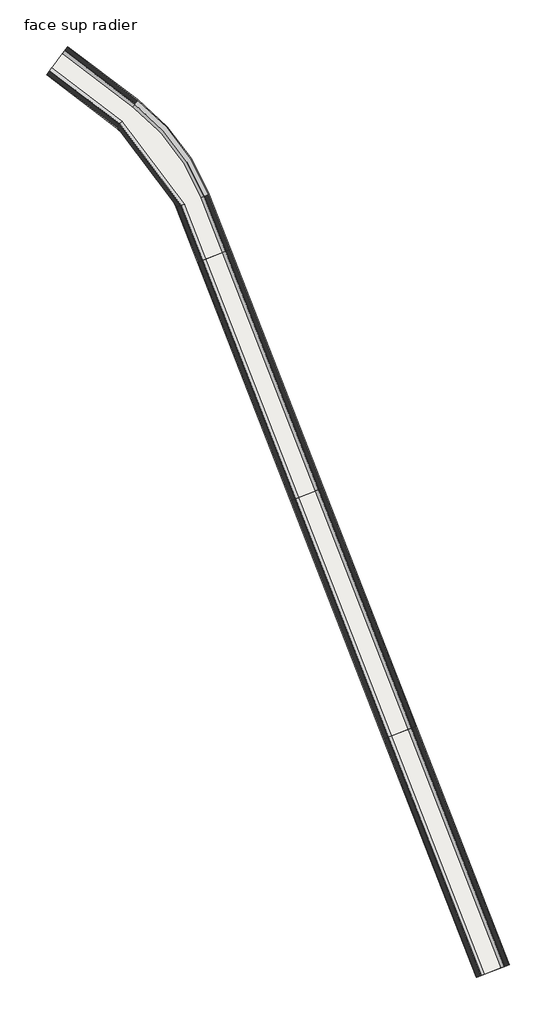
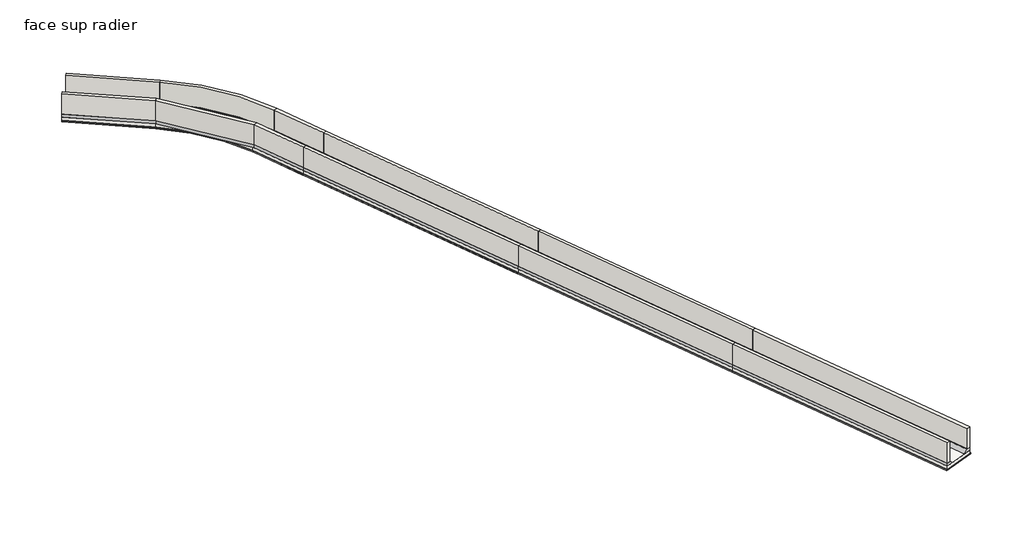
# One storey: 12 proxies, 12 walls, 8 slabs.
"""IFC4 building model written with IfcOpenShell, lengths in millimetres."""

from ifc_helpers import new_model, si_unit, point, frame, frame_2d, origin, place, context, project, spatial, polyline, circle_curve, trimmed, segment, composite_curve, outline, extrude, transform, mapped, element, save
from components import generic_models_72a42a46, generic_models_eec6437c, generic_models_388254e4, generic_models_2f8197d4, generic_models_ab7b40e1, generic_models_5d4a5f9c, generic_models_71e85ab6, generic_models_5fc66349

model = new_model("IFC4")

# Units and contexts
model_context = context("Model", 3, world=origin())
ifc_project = project(units=[si_unit("LENGTHUNIT", "METRE", prefix="MILLI")], contexts=[model_context])

# Site, building, storey
site = spatial("IfcSite", under=ifc_project)
building = spatial("IfcBuilding", under=site)
storey = spatial("IfcBuildingStorey", under=building, Name="face sup radier", Elevation=0.0)

# Proxies
placement = place(None, origin())
generic_models_shape = generic_models_72a42a46(model_context)
element("IfcBuildingElementProxy", 1, Name="Gousset radier bord droit : Gousset radier bord droit", ObjectType="Gousset radier bord droit : Gousset radier bord droit", at=placement, inside=storey, context=model_context, shape_type="MappedRepresentation", body=[
    mapped(generic_models_shape, transform((19414.9670882, -24114.5685686, 0.0), x_axis=(0.36332202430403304, -0.9316636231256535, 0.0), y_axis=(0.9316636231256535, 0.36332202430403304, 0.0), z_axis=(0.0, 0.0, 1.0))),
])
element("IfcBuildingElementProxy", 2, Name="Gousset radier bord droit : Gousset radier bord droit", ObjectType="Gousset radier bord droit : Gousset radier bord droit", at=placement, inside=storey, context=model_context, shape_type="MappedRepresentation", body=[
    mapped(generic_models_shape, transform((28686.9451499, -47890.6242347, 0.0), x_axis=(0.3633220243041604, -0.9316636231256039, 0.0), y_axis=(0.9316636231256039, 0.3633220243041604, 0.0), z_axis=(0.0, 0.0, 1.0))),
])
element("IfcBuildingElementProxy", 3, Name="Gousset radier bord droit : Gousset radier bord droit", ObjectType="Gousset radier bord droit : Gousset radier bord droit", at=placement, inside=storey, context=model_context, shape_type="MappedRepresentation", body=[
    mapped(generic_models_shape, transform((37958.9232117, -71666.6799007, 0.0), x_axis=(0.3633220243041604, -0.9316636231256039, 0.0), y_axis=(0.9316636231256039, 0.3633220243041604, 0.0), z_axis=(0.0, 0.0, 1.0))),
])
generic_models_2_shape = generic_models_eec6437c(model_context)
element("IfcBuildingElementProxy", 4, Name="Gousset radier bord droit : Gousset radier bord droit", ObjectType="Gousset radier bord droit : Gousset radier bord droit", at=placement, inside=storey, context=model_context, shape_type="MappedRepresentation", body=[
    mapped(generic_models_2_shape, transform((22537.7386278, -22896.7774592, 0.0), x_axis=(0.3633220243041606, -0.9316636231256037, 0.0), y_axis=(0.9316636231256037, 0.3633220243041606, 0.0), z_axis=(0.0, 0.0, 1.0))),
])
element("IfcBuildingElementProxy", 5, Name="Gousset radier bord droit : Gousset radier bord droit", ObjectType="Gousset radier bord droit : Gousset radier bord droit", at=placement, inside=storey, context=model_context, shape_type="MappedRepresentation", body=[
    mapped(generic_models_2_shape, transform((31809.7166896, -46672.8331252, 0.0), x_axis=(0.3633220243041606, -0.9316636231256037, 0.0), y_axis=(0.9316636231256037, 0.3633220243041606, 0.0), z_axis=(0.0, 0.0, 1.0))),
])
element("IfcBuildingElementProxy", 6, Name="Gousset radier bord droit : Gousset radier bord droit", ObjectType="Gousset radier bord droit : Gousset radier bord droit", at=placement, inside=storey, context=model_context, shape_type="MappedRepresentation", body=[
    mapped(generic_models_2_shape, transform((41081.6947513, -70448.8887913, 0.0), x_axis=(0.3633220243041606, -0.9316636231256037, 0.0), y_axis=(0.9316636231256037, 0.3633220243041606, 0.0), z_axis=(0.0, 0.0, 1.0))),
])
generic_models_3_shape = generic_models_388254e4(model_context)
element("IfcBuildingElementProxy", 7, Name="Gousset radier bord droit : Gousset radier bord droit", ObjectType="Gousset radier bord droit : Gousset radier bord droit", at=placement, inside=storey, context=model_context, shape_type="MappedRepresentation", body=[
    mapped(generic_models_3_shape, transform((6328.9008819, -2708.8061228, 0.0), x_axis=(0.7959685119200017, -0.6053380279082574, 0.0), y_axis=(0.6053380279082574, 0.7959685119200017, 0.0), z_axis=(0.0, 0.0, 1.0))),
])
generic_models_4_shape = generic_models_2f8197d4(model_context)
element("IfcBuildingElementProxy", 8, Name="Gousset radier bord droit : Gousset radier bord droit", ObjectType="Gousset radier bord droit : Gousset radier bord droit", at=placement, inside=storey, context=model_context, shape_type="MappedRepresentation", body=[
    mapped(generic_models_4_shape, transform((4301.0184884, -5375.3006377, 0.0), x_axis=(0.7959685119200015, -0.6053380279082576, 0.0), y_axis=(0.6053380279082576, 0.7959685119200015, 0.0), z_axis=(0.0, 0.0, 1.0))),
])
generic_models_5_shape = generic_models_ab7b40e1(model_context)
element("IfcBuildingElementProxy", 9, Name="Gousset radier bord droit : Gousset radier bord droit", ObjectType="Gousset radier bord droit : Gousset radier bord droit", at=placement, inside=storey, context=model_context, shape_type="MappedRepresentation", body=[
    mapped(generic_models_5_shape, transform((19407.6136611, -24095.7122372, 0.0), x_axis=(-0.363322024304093, 0.9316636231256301, 0.0), y_axis=(-0.9316636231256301, -0.363322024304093, 0.0), z_axis=(0.0, 0.0, 1.0))),
])
generic_models_6_shape = generic_models_5d4a5f9c(model_context)
element("IfcBuildingElementProxy", 10, Name="Gousset radier bord droit : Gousset radier bord droit", ObjectType="Gousset radier bord droit : Gousset radier bord droit", at=placement, inside=storey, context=model_context, shape_type="MappedRepresentation", body=[
    mapped(generic_models_6_shape, transform((22530.3852007, -22877.9211277, 0.0), x_axis=(-0.36332202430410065, 0.9316636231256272, 0.0), y_axis=(-0.9316636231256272, -0.36332202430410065, 0.0), z_axis=(0.0, 0.0, 1.0))),
])
generic_models_7_shape = generic_models_71e85ab6(model_context)
element("IfcBuildingElementProxy", 11, Name="Gousset radier courbe ext ou int : Gousset radier courbe - coté extérieur", ObjectType="Gousset radier courbe ext ou int : Gousset radier courbe - coté extérieur", at=placement, inside=storey, context=model_context, shape_type="MappedRepresentation", body=[
    mapped(generic_models_7_shape, transform((201.0759638, -25276.0628916, 0.0), x_axis=(0.9316908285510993, 0.36325225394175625, 0.0), y_axis=(-0.36325225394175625, 0.9316908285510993, 0.0), z_axis=(0.0, 0.0, 1.0))),
])
generic_models_8_shape = generic_models_5fc66349(model_context)
element("IfcBuildingElementProxy", 12, Name="Gousset radier courbe ext ou int : Gousset radier courbe - côté intérieur", ObjectType="Gousset radier courbe ext ou int : Gousset radier courbe - côté intérieur", at=placement, inside=storey, context=model_context, shape_type="MappedRepresentation", body=[
    mapped(generic_models_8_shape, transform((199.3165197, -25275.8995014, 0.0), x_axis=(0.9317220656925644, 0.3631721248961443, 0.0), y_axis=(-0.3631721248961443, 0.9317220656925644, 0.0), z_axis=(0.0, 0.0, 1.0))),
])

# Slabs
element("IfcSlab", 13, ObjectType="Dalle en béton - 350 mm", at=placement, inside=storey, context=model_context, shape_type="SweptSolid", body=[
    extrude(outline(polyline([(22536.8894183, -22897.1086265), (31801.6010385, -46654.5310175), (28679.6787084, -47871.9909596), (19414.9670882, -24114.5685686), (22536.8894183, -22897.1086265)])), frame((0.0, 0.0, -350.0), z_axis=(0.0, 0.0, 1.0), x_axis=(1.0, 0.0, 0.0)), (0.0, 0.0, 1.0), 350.0),
])
element("IfcSlab", 14, ObjectType="Dalle en béton - 350 mm", at=placement, inside=storey, context=model_context, shape_type="SweptSolid", body=[
    extrude(outline(polyline([(31808.86748, -46673.1642925), (41073.5791003, -70430.5866835), (37951.6567702, -71648.0466256), (28686.9451499, -47890.6242347), (31808.86748, -46673.1642925)])), frame((0.0, 0.0, -350.0), z_axis=(0.0, 0.0, 1.0), x_axis=(1.0, 0.0, 0.0)), (0.0, 0.0, 1.0), 350.0),
])
element("IfcSlab", 15, ObjectType="Béton de propreté 100 mm", at=placement, inside=storey, context=model_context, shape_type="SweptSolid", body=[
    extrude(outline(polyline([(22630.9049902, -22860.4452567), (31894.7674009, -46618.198815), (28586.5123461, -47908.323162), (19321.8007258, -24150.900771), (22630.9049902, -22860.4452567)])), frame((0.0, 0.0, -450.0), z_axis=(0.0, 0.0, 1.0), x_axis=(1.0, 0.0, 0.0)), (0.0, 0.0, 1.0), 100.0),
])
element("IfcSlab", 16, ObjectType="Béton de propreté 100 mm", at=placement, inside=storey, context=model_context, shape_type="SweptSolid", body=[
    extrude(outline(polyline([(31902.8830519, -46636.5009228), (41166.7454626, -70394.254481), (37858.4904078, -71684.3788281), (28593.7787876, -47926.9564371), (31902.8830519, -46636.5009228)])), frame((0.0, 0.0, -450.0), z_axis=(0.0, 0.0, 1.0), x_axis=(1.0, 0.0, 0.0)), (0.0, 0.0, 1.0), 100.0),
])
element("IfcSlab", 17, ObjectType="Dalle en béton - 350 mm", at=placement, inside=storey, context=model_context, shape_type="SweptSolid", body=[
    extrude(outline(composite_curve([segment(trimmed(circle_curve(frame_2d((199.7617032, -25280.6604611)), 21676.6863321), [point((13321.4842591, -8026.700698))], [point((20394.3224536, -17402.9421086))], False, "CARTESIAN"), True, "CONTINUOUS"), segment(polyline([(20394.3224536, -17402.9421086), (22529.5359912, -22878.252295), (19407.6136611, -24095.7122372), (17206.8076618, -18452.2038508)]), True, "CONTINUOUS"), segment(trimmed(circle_curve(frame_2d((199.7617032, -25280.6604611)), 18326.6863321), [point((17206.8076618, -18452.2038508))], [point((11293.6018656, -10693.1952129))], True, "CARTESIAN"), True, "CONTINUOUS"), segment(polyline([(11293.6018656, -10693.1952129), (4301.0184884, -5375.3006377), (6328.9008819, -2708.8061228), (13321.4842591, -8026.700698)]), True, "CONTINUOUS")], self_intersect=False)), frame((0.0, 0.0, -350.0), z_axis=(0.0, 0.0, 1.0), x_axis=(1.0, 0.0, 0.0)), (0.0, 0.0, 1.0), 350.0),
])
element("IfcSlab", 18, ObjectType="Béton de propreté 100 mm", at=placement, inside=storey, context=model_context, shape_type="SweptSolid", body=[
    extrude(outline(composite_curve([segment(polyline([(4249.3035036, -5461.6043367), (6386.1812958, -2626.7349605), (13374.2389273, -7943.0541841)]), True, "CONTINUOUS"), segment(trimmed(circle_curve(frame_2d((222.2637876, -25269.207986)), 21752.4724029), [point((13374.2389273, -7943.0541841))], [point((20488.2510384, -17366.0556789))], False, "CARTESIAN"), True, "CONTINUOUS"), segment(polyline([(20488.2510384, -17366.0556789), (22623.551563, -22841.5889253), (19314.4472985, -24132.0444397), (17179.5761262, -18656.4008068)]), True, "CONTINUOUS"), segment(trimmed(circle_curve(frame_2d((195.3771408, -25286.3122702)), 18232.3542414), [point((17179.5761262, -18656.4008068))], [point((11234.5698788, -10775.8000504))], True, "CARTESIAN"), True, "CONTINUOUS"), segment(polyline([(11234.5698788, -10775.8000504), (4249.3035036, -5461.6043367)]), True, "CONTINUOUS")], self_intersect=False)), frame((0.0, 0.0, -450.0), z_axis=(0.0, 0.0, 1.0), x_axis=(1.0, 0.0, 0.0)), (0.0, 0.0, 1.0), 100.0),
])
element("IfcSlab", 19, ObjectType="Dalle en béton - 350 mm", at=placement, inside=storey, context=model_context, shape_type="SweptSolid", body=[
    extrude(outline(polyline([(41080.8455418, -70449.2199586), (50345.557162, -94206.6423495), (47223.6348319, -95424.1022917), (37958.9232117, -71666.6799007), (41080.8455418, -70449.2199586)])), frame((0.0, 0.0, -350.0), z_axis=(0.0, 0.0, 1.0), x_axis=(1.0, 0.0, 0.0)), (0.0, 0.0, 1.0), 350.0),
])
element("IfcSlab", 20, ObjectType="Béton de propreté 100 mm", at=placement, inside=storey, context=model_context, shape_type="SweptSolid", body=[
    extrude(outline(polyline([(41174.8611137, -70412.5565888), (50438.7235244, -94170.3101471), (47130.4684696, -95460.4344941), (37865.7568493, -71703.0121031), (41174.8611137, -70412.5565888)])), frame((0.0, 0.0, -450.0), z_axis=(0.0, 0.0, 1.0), x_axis=(1.0, 0.0, 0.0)), (0.0, 0.0, 1.0), 100.0),
])

# Walls
element("IfcWall", 21, ObjectType="Voile BA 350 mm", at=placement, inside=storey, context=model_context, shape_type="SweptSolid", body=[
    extrude(outline(polyline([(31476.36798, -46781.3625587), (22211.6563597, -23023.9401677), (22537.7386278, -22896.7774592), (31802.4502481, -46654.1998502), (31476.36798, -46781.3625587)])), frame((0.0, 0.0, 350.0), z_axis=(0.0, 0.0, 1.0), x_axis=(1.0, 0.0, 0.0)), (0.0, 0.0, 1.0), 2300.0),
])
element("IfcWall", 22, ObjectType="Voile BA 350 mm", at=placement, inside=storey, context=model_context, shape_type="SweptSolid", body=[
    extrude(outline(polyline([(19741.0493563, -23987.4058601), (29005.7609765, -47744.8282511), (28679.6787084, -47871.9909596), (19414.9670882, -24114.5685686), (19741.0493563, -23987.4058601)])), frame((0.0, 0.0, 350.0), z_axis=(0.0, 0.0, 1.0), x_axis=(1.0, 0.0, 0.0)), (0.0, 0.0, 1.0), 2300.0),
])
element("IfcWall", 23, ObjectType="Voile BA 350 mm", at=placement, inside=storey, context=model_context, shape_type="SweptSolid", body=[
    extrude(outline(polyline([(40748.3460417, -70557.4182247), (31483.6344215, -46799.9958337), (31809.7166896, -46672.8331252), (41074.4283098, -70430.2555162), (40748.3460417, -70557.4182247)])), frame((0.0, 0.0, 350.0), z_axis=(0.0, 0.0, 1.0), x_axis=(1.0, 0.0, 0.0)), (0.0, 0.0, 1.0), 2300.0),
])
element("IfcWall", 24, ObjectType="Voile BA 350 mm", at=placement, inside=storey, context=model_context, shape_type="SweptSolid", body=[
    extrude(outline(polyline([(29013.027418, -47763.4615261), (38277.7390383, -71520.8839171), (37951.6567702, -71648.0466256), (28686.9451499, -47890.6242347), (29013.027418, -47763.4615261)])), frame((0.0, 0.0, 350.0), z_axis=(0.0, 0.0, 1.0), x_axis=(1.0, 0.0, 0.0)), (0.0, 0.0, 1.0), 2300.0),
])
element("IfcWall", 25, ObjectType="Voile BA 350 mm", at=placement, inside=storey, context=model_context, shape_type="SweptSolid", body=[
    extrude(outline(polyline([(13109.6159493, -8305.2896772), (6117.0325721, -2987.395102), (6328.9008819, -2708.8061228), (13321.4842591, -8026.700698), (13109.6159493, -8305.2896772)])), frame((0.0, 0.0, 350.0), z_axis=(0.0, 0.0, 1.0), x_axis=(1.0, 0.0, 0.0)), (0.0, 0.0, 1.0), 2300.0),
])
element("IfcWall", 26, ObjectType="Voile BA 350 mm", at=placement, inside=storey, context=model_context, shape_type="SweptSolid", body=[
    extrude(outline(polyline([(22204.2824777, -23005.0313714), (20071.5914373, -17533.5891393), (20397.6941603, -17406.4788956), (22530.3852007, -22877.9211277), (22204.2824777, -23005.0313714)])), frame((0.0, 0.0, 350.0), z_axis=(0.0, 0.0, 1.0), x_axis=(1.0, 0.0, 0.0)), (0.0, 0.0, 1.0), 2300.0),
])
element("IfcWall", 27, ObjectType="Voile BA 350 mm", at=placement, inside=storey, context=model_context, shape_type="SweptSolid", body=[
    extrude(outline(polyline([(17601.3431851, -18497.9734667), (19733.7163976, -23968.6020282), (19407.6136611, -24095.7122372), (17275.2404486, -18625.0836757), (17601.3431851, -18497.9734667)])), frame((0.0, 0.0, 350.0), z_axis=(0.0, 0.0, 1.0), x_axis=(1.0, 0.0, 0.0)), (0.0, 0.0, 1.0), 2300.0),
])
element("IfcWall", 28, ObjectType="Voile BA 350 mm", at=placement, inside=storey, context=model_context, shape_type="SweptSolid", body=[
    extrude(outline(composite_curve([segment(polyline([(20395.9609855, -17407.1437823), (20069.865491, -17534.2725692)]), True, "CONTINUOUS"), segment(trimmed(circle_curve(frame_2d((199.7617032, -25280.6604611)), 21326.6863321), [point((20069.865491, -17534.2725692))], [point((13109.6159493, -8305.2896772))], True, "CARTESIAN"), True, "CONTINUOUS"), segment(polyline([(13109.6159493, -8305.2896772), (13321.4842591, -8026.700698)]), True, "CONTINUOUS"), segment(trimmed(circle_curve(frame_2d((199.7617032, -25280.6604611)), 21676.6863321), [point((13321.4842591, -8026.700698))], [point((20395.9609855, -17407.1437823))], False, "CARTESIAN"), True, "CONTINUOUS")], self_intersect=False)), frame((0.0, 0.0, 350.0), z_axis=(0.0, 0.0, 1.0), x_axis=(1.0, 0.0, 0.0)), (0.0, 0.0, 1.0), 2300.0),
])
element("IfcWall", 29, ObjectType="Voile BA 350 mm", at=placement, inside=storey, context=model_context, shape_type="SweptSolid", body=[
    extrude(outline(composite_curve([segment(polyline([(11293.6013568, -10693.1948259), (11505.4706842, -10414.6066207)]), True, "CONTINUOUS"), segment(trimmed(circle_curve(frame_2d((199.422677, -25280.9945985)), 18677.1575205), [point((11505.4706842, -10414.6066207))], [point((17601.3431851, -18497.9734667))], False, "CARTESIAN"), True, "CONTINUOUS"), segment(polyline([(17601.3431851, -18497.9734667), (17275.2404486, -18625.0836757)]), True, "CONTINUOUS"), segment(trimmed(circle_curve(frame_2d((199.422677, -25280.9945985)), 18327.1575205), [point((17275.2404486, -18625.0836757))], [point((11293.6013568, -10693.1948259))], True, "CARTESIAN"), True, "CONTINUOUS")], self_intersect=False)), frame((0.0, 0.0, 350.0), z_axis=(0.0, 0.0, 1.0), x_axis=(1.0, 0.0, 0.0)), (0.0, 0.0, 1.0), 2300.0),
])
element("IfcWall", 30, ObjectType="Voile BA 350 mm", at=placement, inside=storey, context=model_context, shape_type="SweptSolid", body=[
    extrude(outline(polyline([(4512.8867981, -5096.7116586), (11505.4701754, -10414.6062337), (11293.6018656, -10693.1952129), (4301.0184884, -5375.3006377), (4512.8867981, -5096.7116586)])), frame((0.0, 0.0, 350.0), z_axis=(0.0, 0.0, 1.0), x_axis=(1.0, 0.0, 0.0)), (0.0, 0.0, 1.0), 2300.0),
])
element("IfcWall", 31, ObjectType="Voile BA 350 mm", at=placement, inside=storey, context=model_context, shape_type="SweptSolid", body=[
    extrude(outline(polyline([(50020.3241035, -94333.4738907), (40755.6124832, -70576.0514998), (41081.6947513, -70448.8887913), (50346.4063716, -94206.3111822), (50020.3241035, -94333.4738907)])), frame((0.0, 0.0, 350.0), z_axis=(0.0, 0.0, 1.0), x_axis=(1.0, 0.0, 0.0)), (0.0, 0.0, 1.0), 2300.0),
])
element("IfcWall", 32, ObjectType="Voile BA 350 mm", at=placement, inside=storey, context=model_context, shape_type="SweptSolid", body=[
    extrude(outline(polyline([(38285.0054798, -71539.5171922), (47549.7171, -95296.9395832), (47223.6348319, -95424.1022917), (37958.9232117, -71666.6799007), (38285.0054798, -71539.5171922)])), frame((0.0, 0.0, 350.0), z_axis=(0.0, 0.0, 1.0), x_axis=(1.0, 0.0, 0.0)), (0.0, 0.0, 1.0), 2300.0),
])

save(model, "model.ifc")
